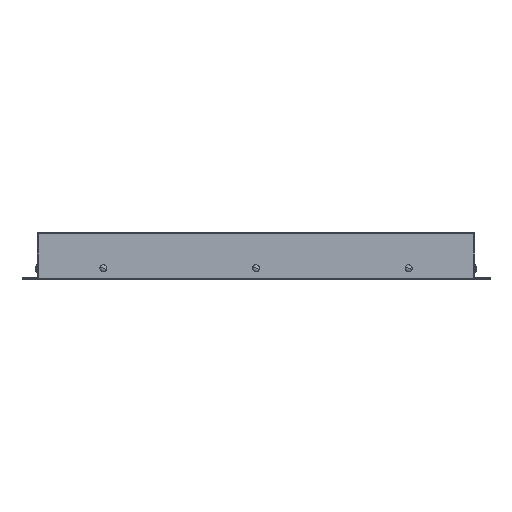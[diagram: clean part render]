
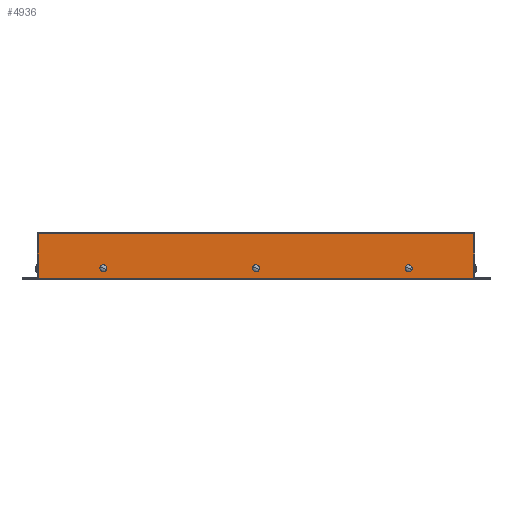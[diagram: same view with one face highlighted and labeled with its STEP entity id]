
A CAD part, top view. The second image highlights one B-rep face of the part: STEP entity #4936.
In plain terms, the highlighted planar face has unit normal (0, 0, 1).
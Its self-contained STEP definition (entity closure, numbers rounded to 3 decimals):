
#123 = DIRECTION ( 'NONE',  ( 0., -1., 0. ) ) ;
#130 = DIRECTION ( 'NONE',  ( 0.382, 0.924, 0. ) ) ;
#138 = DIRECTION ( 'NONE',  ( 0., 0., 1. ) ) ;
#150 = CARTESIAN_POINT ( 'NONE',  ( -214., 727.495, 265. ) ) ;
#152 = CARTESIAN_POINT ( 'NONE',  ( 150., 10., 265. ) ) ;
#190 = ORIENTED_EDGE ( 'NONE', *, *, #3974, .F. ) ;
#213 = ORIENTED_EDGE ( 'NONE', *, *, #2691, .F. ) ;
#214 = AXIS2_PLACEMENT_3D ( 'NONE', #5652, #5648, #5639 ) ;
#217 = ORIENTED_EDGE ( 'NONE', *, *, #4612, .F. ) ;
#223 = ORIENTED_EDGE ( 'NONE', *, *, #6221, .F. ) ;
#241 = ORIENTED_EDGE ( 'NONE', *, *, #3506, .F. ) ;
#246 = ORIENTED_EDGE ( 'NONE', *, *, #3015, .F. ) ;
#250 = ORIENTED_EDGE ( 'NONE', *, *, #2502, .F. ) ;
#259 = ORIENTED_EDGE ( 'NONE', *, *, #1845, .T. ) ;
#263 = ORIENTED_EDGE ( 'NONE', *, *, #2547, .T. ) ;
#272 = ORIENTED_EDGE ( 'NONE', *, *, #3462, .T. ) ;
#298 = CIRCLE ( 'NONE', #2583, 3.45 ) ;
#421 = LINE ( 'NONE', #2422, #451 ) ;
#451 = VECTOR ( 'NONE', #2408, 1000. ) ;
#457 = VECTOR ( 'NONE', #2623, 1000. ) ;
#490 = LINE ( 'NONE', #2554, #457 ) ;
#552 = AXIS2_PLACEMENT_3D ( 'NONE', #1492, #1424, #1481 ) ;
#858 = VECTOR ( 'NONE', #4644, 1000. ) ;
#874 = LINE ( 'NONE', #4652, #858 ) ;
#944 = AXIS2_PLACEMENT_3D ( 'NONE', #3740, #5524, #5545 ) ;
#1073 = DIRECTION ( 'NONE',  ( 0.382, 0.924, 0. ) ) ;
#1079 = DIRECTION ( 'NONE',  ( 0., 0., 1. ) ) ;
#1083 = CARTESIAN_POINT ( 'NONE',  ( -150., 10., 265. ) ) ;
#1094 = CARTESIAN_POINT ( 'NONE',  ( -148.683, 13.189, 265. ) ) ;
#1424 = DIRECTION ( 'NONE',  ( 0., 0., 1. ) ) ;
#1481 = DIRECTION ( 'NONE',  ( 0.382, 0.924, 0. ) ) ;
#1492 = CARTESIAN_POINT ( 'NONE',  ( 150., 10., 265. ) ) ;
#1653 = CARTESIAN_POINT ( 'NONE',  ( -214., 0., 265. ) ) ;
#1659 = CARTESIAN_POINT ( 'NONE',  ( 214., 44., 265. ) ) ;
#1845 = EDGE_CURVE ( 'NONE', #4923, #5785, #874, .T. ) ;
#2020 = DIRECTION ( 'NONE',  ( 0.382, 0.924, 0. ) ) ;
#2024 = DIRECTION ( 'NONE',  ( 0., 0., 1. ) ) ;
#2032 = CARTESIAN_POINT ( 'NONE',  ( 0., 10., 265. ) ) ;
#2164 = VERTEX_POINT ( 'NONE', #3677 ) ;
#2324 = CARTESIAN_POINT ( 'NONE',  ( -150., 10., 265. ) ) ;
#2404 = CARTESIAN_POINT ( 'NONE',  ( 1.317, 13.189, 265. ) ) ;
#2408 = DIRECTION ( 'NONE',  ( -1., 0., 0. ) ) ;
#2422 = CARTESIAN_POINT ( 'NONE',  ( -215., 44., 265. ) ) ;
#2502 = EDGE_CURVE ( 'NONE', #4923, #2838, #490, .T. ) ;
#2547 = EDGE_CURVE ( 'NONE', #5785, #5068, #421, .T. ) ;
#2554 = CARTESIAN_POINT ( 'NONE',  ( -215., 0., 265. ) ) ;
#2583 = AXIS2_PLACEMENT_3D ( 'NONE', #2032, #2024, #2020 ) ;
#2618 = DIRECTION ( 'NONE',  ( 0., 0., 1. ) ) ;
#2623 = DIRECTION ( 'NONE',  ( -1., 0., 0. ) ) ;
#2650 = CIRCLE ( 'NONE', #3759, 3.45 ) ;
#2657 = CARTESIAN_POINT ( 'NONE',  ( 151.317, 13.189, 265. ) ) ;
#2691 = EDGE_CURVE ( 'NONE', #2164, #4444, #298, .T. ) ;
#2838 = VERTEX_POINT ( 'NONE', #1653 ) ;
#3015 = EDGE_CURVE ( 'NONE', #4530, #5933, #6305, .T. ) ;
#3046 = CARTESIAN_POINT ( 'NONE',  ( 148.683, 6.811, 265. ) ) ;
#3462 = EDGE_CURVE ( 'NONE', #5068, #2838, #5896, .T. ) ;
#3506 = EDGE_CURVE ( 'NONE', #5933, #4530, #5883, .T. ) ;
#3677 = CARTESIAN_POINT ( 'NONE',  ( -1.317, 6.811, 265. ) ) ;
#3698 = DIRECTION ( 'NONE',  ( 0.382, 0.924, 0. ) ) ;
#3699 = VERTEX_POINT ( 'NONE', #3046 ) ;
#3740 = CARTESIAN_POINT ( 'NONE',  ( 0., 10., 265. ) ) ;
#3759 = AXIS2_PLACEMENT_3D ( 'NONE', #152, #138, #130 ) ;
#3859 = VERTEX_POINT ( 'NONE', #2657 ) ;
#3974 = EDGE_CURVE ( 'NONE', #4444, #2164, #5467, .T. ) ;
#3977 = EDGE_LOOP ( 'NONE', ( #217, #223 ) ) ;
#3995 = EDGE_LOOP ( 'NONE', ( #241, #246 ) ) ;
#4422 = FACE_OUTER_BOUND ( 'NONE', #5853, .T. ) ;
#4429 = FACE_BOUND ( 'NONE', #3995, .T. ) ;
#4442 = FACE_BOUND ( 'NONE', #6239, .T. ) ;
#4444 = VERTEX_POINT ( 'NONE', #2404 ) ;
#4475 = FACE_BOUND ( 'NONE', #3977, .T. ) ;
#4530 = VERTEX_POINT ( 'NONE', #5825 ) ;
#4601 = AXIS2_PLACEMENT_3D ( 'NONE', #1083, #1079, #1073 ) ;
#4612 = EDGE_CURVE ( 'NONE', #3859, #3699, #4861, .T. ) ;
#4644 = DIRECTION ( 'NONE',  ( 0., 1., 0. ) ) ;
#4652 = CARTESIAN_POINT ( 'NONE',  ( 214., 727.495, 265. ) ) ;
#4726 = CARTESIAN_POINT ( 'NONE',  ( -214., 44., 265. ) ) ;
#4861 = CIRCLE ( 'NONE', #552, 3.45 ) ;
#4923 = VERTEX_POINT ( 'NONE', #5782 ) ;
#4936 = ADVANCED_FACE ( 'NONE', ( #4442, #4475, #4429, #4422 ), #5708, .T. ) ;
#5068 = VERTEX_POINT ( 'NONE', #4726 ) ;
#5416 = AXIS2_PLACEMENT_3D ( 'NONE', #2324, #2618, #3698 ) ;
#5467 = CIRCLE ( 'NONE', #944, 3.45 ) ;
#5524 = DIRECTION ( 'NONE',  ( 0., 0., 1. ) ) ;
#5545 = DIRECTION ( 'NONE',  ( 0.382, 0.924, 0. ) ) ;
#5639 = DIRECTION ( 'NONE',  ( 1., 0., 0. ) ) ;
#5648 = DIRECTION ( 'NONE',  ( 0., 0., 1. ) ) ;
#5652 = CARTESIAN_POINT ( 'NONE',  ( -215., 727.495, 265. ) ) ;
#5708 = PLANE ( 'NONE',  #214 ) ;
#5782 = CARTESIAN_POINT ( 'NONE',  ( 214., 0., 265. ) ) ;
#5785 = VERTEX_POINT ( 'NONE', #1659 ) ;
#5825 = CARTESIAN_POINT ( 'NONE',  ( -151.317, 6.811, 265. ) ) ;
#5853 = EDGE_LOOP ( 'NONE', ( #250, #259, #263, #272 ) ) ;
#5883 = CIRCLE ( 'NONE', #5416, 3.45 ) ;
#5891 = VECTOR ( 'NONE', #123, 1000. ) ;
#5896 = LINE ( 'NONE', #150, #5891 ) ;
#5933 = VERTEX_POINT ( 'NONE', #1094 ) ;
#6221 = EDGE_CURVE ( 'NONE', #3699, #3859, #2650, .T. ) ;
#6239 = EDGE_LOOP ( 'NONE', ( #190, #213 ) ) ;
#6305 = CIRCLE ( 'NONE', #4601, 3.45 ) ;
